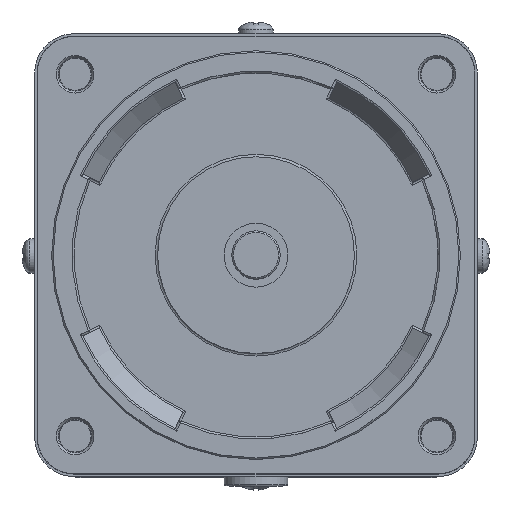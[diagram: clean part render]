
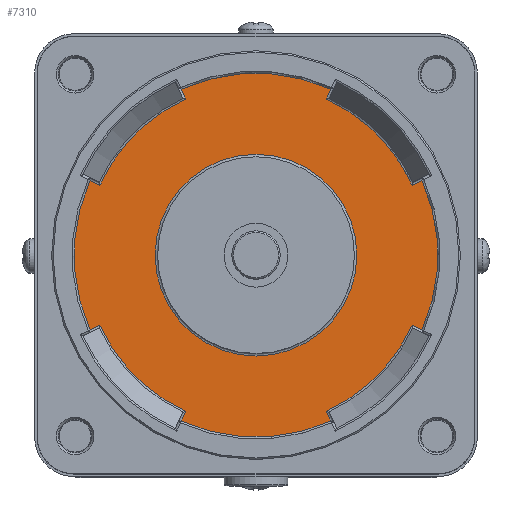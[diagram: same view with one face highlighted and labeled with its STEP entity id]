
A CAD part, top view. The second image highlights one B-rep face of the part: STEP entity #7310.
In plain terms, the highlighted planar face has unit normal (0, 0, 1).
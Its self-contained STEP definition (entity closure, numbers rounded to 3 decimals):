
#110 = EDGE_CURVE ( 'NONE', #4117, #4117, #3250, .T. ) ;
#215 = VERTEX_POINT ( 'NONE', #2864 ) ;
#309 = CIRCLE ( 'NONE', #7873, 34.775 ) ;
#443 = CARTESIAN_POINT ( 'NONE',  ( 14.242, -31.725, -2. ) ) ;
#578 = DIRECTION ( 'NONE',  ( 0.423, -0.906, 0. ) ) ;
#725 = ORIENTED_EDGE ( 'NONE', *, *, #9494, .T. ) ;
#769 = CARTESIAN_POINT ( 'NONE',  ( -0.453, 0.211, -2. ) ) ;
#997 = AXIS2_PLACEMENT_3D ( 'NONE', #9612, #7647, #11788 ) ;
#1023 = CARTESIAN_POINT ( 'NONE',  ( -33.73, 15.177, -2. ) ) ;
#1037 = CARTESIAN_POINT ( 'NONE',  ( -14.242, 31.725, -2. ) ) ;
#1149 = ORIENTED_EDGE ( 'NONE', *, *, #10126, .T. ) ;
#1196 = ORIENTED_EDGE ( 'NONE', *, *, #2704, .T. ) ;
#1211 = VECTOR ( 'NONE', #3414, 1000. ) ;
#1360 = DIRECTION ( 'NONE',  ( 1., 0., 0. ) ) ;
#1404 = PLANE ( 'NONE',  #9208 ) ;
#1638 = EDGE_CURVE ( 'NONE', #7159, #12842, #3933, .T. ) ;
#1767 = VERTEX_POINT ( 'NONE', #1023 ) ;
#1846 = VERTEX_POINT ( 'NONE', #8053 ) ;
#2016 = CARTESIAN_POINT ( 'NONE',  ( 33.73, 15.177, -2. ) ) ;
#2041 = LINE ( 'NONE', #4294, #5724 ) ;
#2080 = CIRCLE ( 'NONE', #12472, 34.775 ) ;
#2092 = VERTEX_POINT ( 'NONE', #8035 ) ;
#2175 = DIRECTION ( 'NONE',  ( 0., 0., 1. ) ) ;
#2182 = ORIENTED_EDGE ( 'NONE', *, *, #4896, .T. ) ;
#2360 = CARTESIAN_POINT ( 'NONE',  ( -15.177, -33.73, -2. ) ) ;
#2382 = CARTESIAN_POINT ( 'NONE',  ( 0., 0., -2. ) ) ;
#2393 = VECTOR ( 'NONE', #3080, 1000. ) ;
#2537 = CARTESIAN_POINT ( 'NONE',  ( 31.725, 14.242, -2. ) ) ;
#2704 = EDGE_CURVE ( 'NONE', #10397, #2092, #10859, .T. ) ;
#2864 = CARTESIAN_POINT ( 'NONE',  ( -15.177, 33.73, -2. ) ) ;
#3080 = DIRECTION ( 'NONE',  ( -0.906, 0.423, 0. ) ) ;
#3250 = CIRCLE ( 'NONE', #10813, 20.5 ) ;
#3253 = CARTESIAN_POINT ( 'NONE',  ( 0.211, 0.453, -2. ) ) ;
#3414 = DIRECTION ( 'NONE',  ( -0.906, -0.423, 0. ) ) ;
#3576 = CIRCLE ( 'NONE', #5310, 34.775 ) ;
#3616 = EDGE_LOOP ( 'NONE', ( #1149, #725, #2182, #7940, #7792, #12731, #6608, #7606, #9855, #11175, #1196, #11167, #7469, #4387, #11848, #8770 ) ) ;
#3773 = CARTESIAN_POINT ( 'NONE',  ( 14.242, 31.725, -2. ) ) ;
#3791 = DIRECTION ( 'NONE',  ( 1., 0., 0. ) ) ;
#3814 = CARTESIAN_POINT ( 'NONE',  ( 15.177, -33.73, -2. ) ) ;
#3892 = CARTESIAN_POINT ( 'NONE',  ( -0.211, -0.453, -2. ) ) ;
#3905 = CARTESIAN_POINT ( 'NONE',  ( 0.453, -0.211, -2. ) ) ;
#3933 = CIRCLE ( 'NONE', #5450, 36.987 ) ;
#4045 = CIRCLE ( 'NONE', #10736, 36.987 ) ;
#4071 = ORIENTED_EDGE ( 'NONE', *, *, #110, .T. ) ;
#4117 = VERTEX_POINT ( 'NONE', #6069 ) ;
#4172 = EDGE_CURVE ( 'NONE', #11326, #8262, #309, .T. ) ;
#4294 = CARTESIAN_POINT ( 'NONE',  ( 14.338, -31.932, -2. ) ) ;
#4387 = ORIENTED_EDGE ( 'NONE', *, *, #1638, .T. ) ;
#4555 = DIRECTION ( 'NONE',  ( 0., 0., 1. ) ) ;
#4670 = FACE_OUTER_BOUND ( 'NONE', #3616, .T. ) ;
#4714 = EDGE_CURVE ( 'NONE', #8575, #7159, #5925, .T. ) ;
#4843 = CARTESIAN_POINT ( 'NONE',  ( 0., 0., -2. ) ) ;
#4850 = VERTEX_POINT ( 'NONE', #2537 ) ;
#4896 = EDGE_CURVE ( 'NONE', #5888, #4850, #12948, .T. ) ;
#5108 = VECTOR ( 'NONE', #11136, 1000. ) ;
#5255 = VECTOR ( 'NONE', #8814, 1000. ) ;
#5310 = AXIS2_PLACEMENT_3D ( 'NONE', #13048, #12107, #3791 ) ;
#5344 = CIRCLE ( 'NONE', #11394, 36.987 ) ;
#5450 = AXIS2_PLACEMENT_3D ( 'NONE', #8927, #8728, #6901 ) ;
#5531 = EDGE_LOOP ( 'NONE', ( #4071 ) ) ;
#5590 = VERTEX_POINT ( 'NONE', #7304 ) ;
#5724 = VECTOR ( 'NONE', #10365, 1000. ) ;
#5742 = CARTESIAN_POINT ( 'NONE',  ( 0., 0., -2. ) ) ;
#5783 = DIRECTION ( 'NONE',  ( 1., 0., 0. ) ) ;
#5821 = EDGE_CURVE ( 'NONE', #4850, #6151, #3576, .T. ) ;
#5888 = VERTEX_POINT ( 'NONE', #2016 ) ;
#5893 = VERTEX_POINT ( 'NONE', #443 ) ;
#5898 = DIRECTION ( 'NONE',  ( 1., 0., 0. ) ) ;
#5925 = LINE ( 'NONE', #3905, #5108 ) ;
#5976 = CIRCLE ( 'NONE', #997, 36.987 ) ;
#6036 = EDGE_CURVE ( 'NONE', #215, #11326, #8892, .T. ) ;
#6069 = CARTESIAN_POINT ( 'NONE',  ( 20.5, 0., -2. ) ) ;
#6151 = VERTEX_POINT ( 'NONE', #3773 ) ;
#6307 = DIRECTION ( 'NONE',  ( 1., 0., 0. ) ) ;
#6608 = ORIENTED_EDGE ( 'NONE', *, *, #6036, .T. ) ;
#6623 = DIRECTION ( 'NONE',  ( 0., 0., 1. ) ) ;
#6662 = EDGE_CURVE ( 'NONE', #6151, #11885, #11399, .T. ) ;
#6678 = CARTESIAN_POINT ( 'NONE',  ( 15.177, 33.73, -2. ) ) ;
#6901 = DIRECTION ( 'NONE',  ( 1., 0., 0. ) ) ;
#6919 = EDGE_CURVE ( 'NONE', #2092, #8575, #2080, .T. ) ;
#7098 = DIRECTION ( 'NONE',  ( 0.906, -0.423, 0. ) ) ;
#7159 = VERTEX_POINT ( 'NONE', #2360 ) ;
#7280 = EDGE_CURVE ( 'NONE', #1767, #10397, #4045, .T. ) ;
#7304 = CARTESIAN_POINT ( 'NONE',  ( 33.73, -15.177, -2. ) ) ;
#7310 = ADVANCED_FACE ( 'NONE', ( #4670, #10880 ), #1404, .T. ) ;
#7469 = ORIENTED_EDGE ( 'NONE', *, *, #4714, .T. ) ;
#7606 = ORIENTED_EDGE ( 'NONE', *, *, #4172, .T. ) ;
#7647 = DIRECTION ( 'NONE',  ( 0., 0., 1. ) ) ;
#7715 = CARTESIAN_POINT ( 'NONE',  ( 0., 0., -2. ) ) ;
#7792 = ORIENTED_EDGE ( 'NONE', *, *, #6662, .T. ) ;
#7849 = DIRECTION ( 'NONE',  ( 0., 0., 1. ) ) ;
#7873 = AXIS2_PLACEMENT_3D ( 'NONE', #2382, #8723, #1360 ) ;
#7940 = ORIENTED_EDGE ( 'NONE', *, *, #5821, .T. ) ;
#8035 = CARTESIAN_POINT ( 'NONE',  ( -31.725, -14.242, -2. ) ) ;
#8053 = CARTESIAN_POINT ( 'NONE',  ( 31.725, -14.242, -2. ) ) ;
#8208 = EDGE_CURVE ( 'NONE', #12842, #5893, #2041, .T. ) ;
#8262 = VERTEX_POINT ( 'NONE', #8399 ) ;
#8399 = CARTESIAN_POINT ( 'NONE',  ( -31.725, 14.242, -2. ) ) ;
#8575 = VERTEX_POINT ( 'NONE', #9513 ) ;
#8633 = AXIS2_PLACEMENT_3D ( 'NONE', #9600, #2175, #6307 ) ;
#8723 = DIRECTION ( 'NONE',  ( 0., 0., 1. ) ) ;
#8728 = DIRECTION ( 'NONE',  ( 0., 0., 1. ) ) ;
#8747 = CARTESIAN_POINT ( 'NONE',  ( -31.932, -14.338, -2. ) ) ;
#8770 = ORIENTED_EDGE ( 'NONE', *, *, #13025, .T. ) ;
#8774 = DIRECTION ( 'NONE',  ( 0., 0., 1. ) ) ;
#8786 = VECTOR ( 'NONE', #7098, 1000. ) ;
#8814 = DIRECTION ( 'NONE',  ( 0.906, 0.423, 0. ) ) ;
#8892 = LINE ( 'NONE', #9858, #11800 ) ;
#8927 = CARTESIAN_POINT ( 'NONE',  ( 0., 0., -2. ) ) ;
#8992 = CARTESIAN_POINT ( 'NONE',  ( 0., 0., -2. ) ) ;
#9020 = DIRECTION ( 'NONE',  ( 0.423, 0.906, 0. ) ) ;
#9208 = AXIS2_PLACEMENT_3D ( 'NONE', #12913, #6623, #9664 ) ;
#9494 = EDGE_CURVE ( 'NONE', #5590, #5888, #5976, .T. ) ;
#9513 = CARTESIAN_POINT ( 'NONE',  ( -14.242, -31.725, -2. ) ) ;
#9600 = CARTESIAN_POINT ( 'NONE',  ( 0., 0., -2. ) ) ;
#9612 = CARTESIAN_POINT ( 'NONE',  ( 0., 0., -2. ) ) ;
#9631 = EDGE_CURVE ( 'NONE', #11885, #215, #5344, .T. ) ;
#9664 = DIRECTION ( 'NONE',  ( 1., 0., 0. ) ) ;
#9728 = DIRECTION ( 'NONE',  ( 1., 0., 0. ) ) ;
#9735 = CARTESIAN_POINT ( 'NONE',  ( -33.73, -15.177, -2. ) ) ;
#9839 = DIRECTION ( 'NONE',  ( 0., 0., -1. ) ) ;
#9855 = ORIENTED_EDGE ( 'NONE', *, *, #12568, .T. ) ;
#9858 = CARTESIAN_POINT ( 'NONE',  ( -14.338, 31.932, -2. ) ) ;
#10126 = EDGE_CURVE ( 'NONE', #1846, #5590, #11388, .T. ) ;
#10146 = CIRCLE ( 'NONE', #8633, 34.775 ) ;
#10365 = DIRECTION ( 'NONE',  ( -0.423, 0.906, 0. ) ) ;
#10397 = VERTEX_POINT ( 'NONE', #9735 ) ;
#10736 = AXIS2_PLACEMENT_3D ( 'NONE', #5742, #8774, #9728 ) ;
#10813 = AXIS2_PLACEMENT_3D ( 'NONE', #4843, #9839, #5783 ) ;
#10859 = LINE ( 'NONE', #8747, #5255 ) ;
#10880 = FACE_BOUND ( 'NONE', #5531, .T. ) ;
#11136 = DIRECTION ( 'NONE',  ( -0.423, -0.906, 0. ) ) ;
#11166 = VECTOR ( 'NONE', #9020, 1000. ) ;
#11167 = ORIENTED_EDGE ( 'NONE', *, *, #6919, .T. ) ;
#11175 = ORIENTED_EDGE ( 'NONE', *, *, #7280, .T. ) ;
#11326 = VERTEX_POINT ( 'NONE', #1037 ) ;
#11388 = LINE ( 'NONE', #3253, #8786 ) ;
#11394 = AXIS2_PLACEMENT_3D ( 'NONE', #8992, #7849, #5898 ) ;
#11399 = LINE ( 'NONE', #769, #11166 ) ;
#11788 = DIRECTION ( 'NONE',  ( 1., 0., 0. ) ) ;
#11800 = VECTOR ( 'NONE', #578, 1000. ) ;
#11848 = ORIENTED_EDGE ( 'NONE', *, *, #8208, .T. ) ;
#11849 = DIRECTION ( 'NONE',  ( 1., 0., 0. ) ) ;
#11885 = VERTEX_POINT ( 'NONE', #6678 ) ;
#12107 = DIRECTION ( 'NONE',  ( 0., 0., 1. ) ) ;
#12472 = AXIS2_PLACEMENT_3D ( 'NONE', #7715, #4555, #11849 ) ;
#12568 = EDGE_CURVE ( 'NONE', #8262, #1767, #13355, .T. ) ;
#12731 = ORIENTED_EDGE ( 'NONE', *, *, #9631, .T. ) ;
#12823 = CARTESIAN_POINT ( 'NONE',  ( 31.932, 14.338, -2. ) ) ;
#12842 = VERTEX_POINT ( 'NONE', #3814 ) ;
#12913 = CARTESIAN_POINT ( 'NONE',  ( 0., 0., -2. ) ) ;
#12948 = LINE ( 'NONE', #12823, #1211 ) ;
#13025 = EDGE_CURVE ( 'NONE', #5893, #1846, #10146, .T. ) ;
#13048 = CARTESIAN_POINT ( 'NONE',  ( 0., 0., -2. ) ) ;
#13355 = LINE ( 'NONE', #3892, #2393 ) ;
